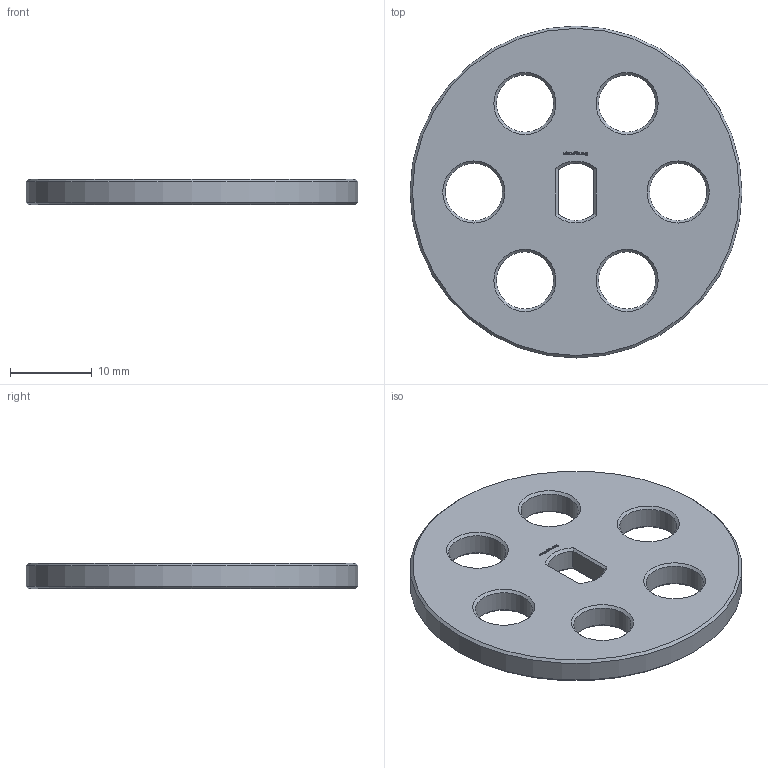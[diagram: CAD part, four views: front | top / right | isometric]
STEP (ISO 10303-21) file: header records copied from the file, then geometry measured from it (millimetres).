
FILE_DESCRIPTION(/* description */ (''),/* implementation_level */ '2;1');
FILE_NAME(/* name */ '/Users/paulokiefe/Desktop/STEMFIE/Fasteners/Washers/Fixed/Washer WSR FXD BU0.25x3.25 - SPN-WSR-0010 v1.step',/* time_stamp */ '2020-09-27T23:15:31+02:00',/* author */ (''),/* organization */ (''),/* preprocessor_version */ 'ST-DEVELOPER v18.1',/* originating_system */ 'Autodesk Translation Framework v9.3.0.1241',/* authorisation */ '');
FILE_SCHEMA (('AUTOMOTIVE_DESIGN { 1 0 10303 214 3 1 1 }'));
Length unit declared in the file: millimetre
Products named in the file (1): Washer WSR FXD BU0.25x3.25 - SPN-WSR-0010
Bounding box: 40.62 x 40.62 x 3.12 mm (x, y, z)
Volume: 3214.1 mm3; surface area: 2851.9 mm2
Topology: 1 solids, 1 shells, 279 faces, 773 edges, 508 vertices
Faces by surface type: plane 252, cone 18, cylinder 9
Full cylindrical faces by diameter (mm): 7 x6, 40.625 x1
Entity records: 8796 total; most frequent: CARTESIAN_POINT 1585, ORIENTED_EDGE 1546, DIRECTION 1361, EDGE_CURVE 773, LINE 729, VECTOR 729, VERTEX_POINT 508, AXIS2_PLACEMENT_3D 316
